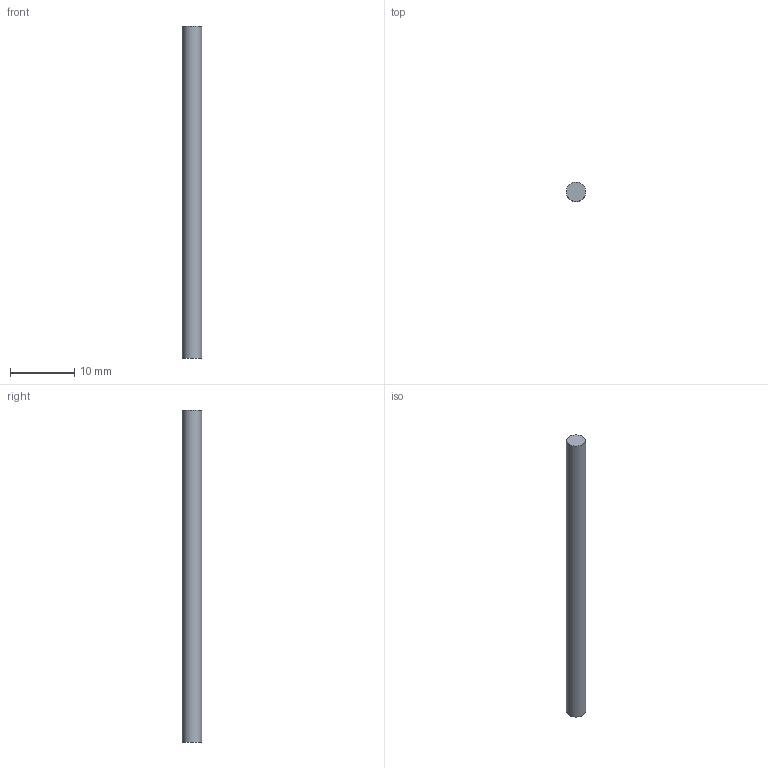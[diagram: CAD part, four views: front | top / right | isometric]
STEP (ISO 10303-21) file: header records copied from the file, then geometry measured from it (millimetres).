
FILE_DESCRIPTION(('FreeCAD Model'),'2;1');
FILE_NAME('Open CASCADE Shape Model','2026-10-30T14:44:59',('FreeCAD'),( 'FreeCAD'),'Open CASCADE STEP processor 7.8','FreeCAD','Unknown');
FILE_SCHEMA(('AUTOMOTIVE_DESIGN { 1 0 10303 214 1 1 1 1 }'));
Length unit declared in the file: millimetre
Products named in the file (1): Open CASCADE STEP translator 7.8 11
Bounding box: 3 x 3 x 51.55 mm (x, y, z)
Volume: 364.4 mm3; surface area: 500 mm2
Topology: 1 solids, 1 shells, 3 faces, 3 edges, 2 vertices
Faces by surface type: plane 2, cylinder 1
Full cylindrical faces by diameter (mm): 3 x1
Entity records: 69 total; most frequent: DIRECTION 13, CARTESIAN_POINT 9, AXIS2_PLACEMENT_3D 6, ORIENTED_EDGE 6, ADVANCED_FACE 3, FACE_BOUND 3, EDGE_LOOP 3, EDGE_CURVE 3
